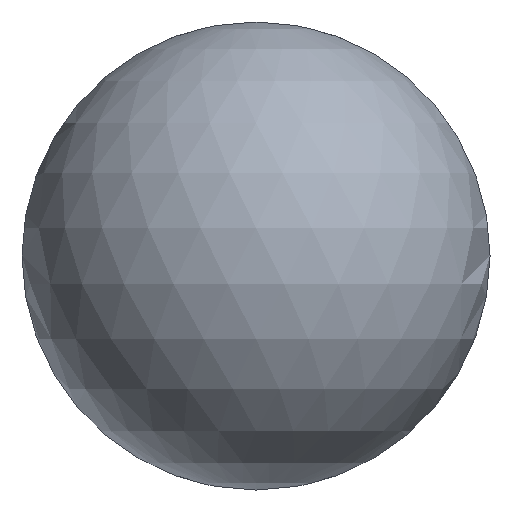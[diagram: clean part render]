
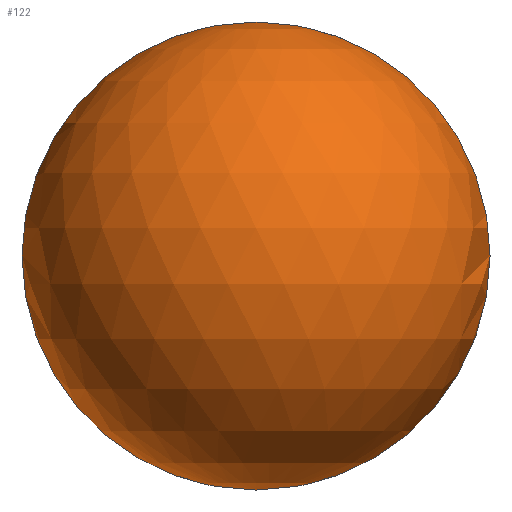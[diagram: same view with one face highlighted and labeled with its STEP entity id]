
A CAD part, front view. The second image highlights one B-rep face of the part: STEP entity #122.
In plain terms, the highlighted spherical face has radius 6 mm.
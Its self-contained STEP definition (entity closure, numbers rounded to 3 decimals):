
#106=SPHERICAL_SURFACE('',#228,6.);
#111=FACE_OUTER_BOUND('',#157,.T.);
#122=ADVANCED_FACE('',(#111),#106,.T.);
#157=EDGE_LOOP('',(#175));
#175=ORIENTED_EDGE('',*,*,#195,.F.);
#186=VERTEX_POINT('',#294);
#195=EDGE_CURVE('',#186,#186,#206,.T.);
#206=CIRCLE('',#221,6.);
#221=AXIS2_PLACEMENT_3D('',#293,#255,#256);
#228=AXIS2_PLACEMENT_3D('',#303,#269,#270);
#255=DIRECTION('',(0.,1.,0.));
#256=DIRECTION('',(0.,0.,-1.));
#269=DIRECTION('',(0.,0.,1.));
#270=DIRECTION('',(1.,0.,0.));
#293=CARTESIAN_POINT('',(0.,-4.,0.));
#294=CARTESIAN_POINT('',(0.,-4.,-6.));
#303=CARTESIAN_POINT('',(0.,-4.,0.));
